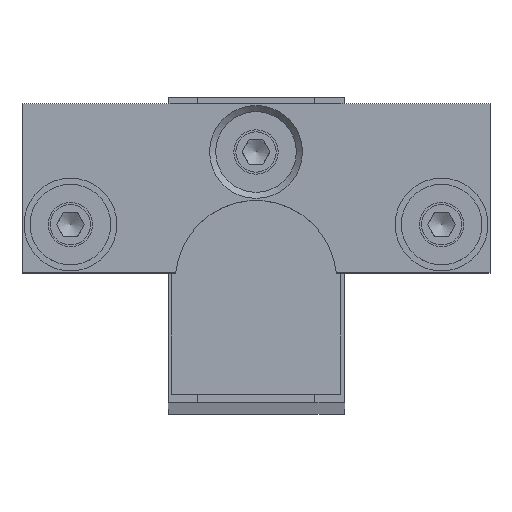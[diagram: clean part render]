
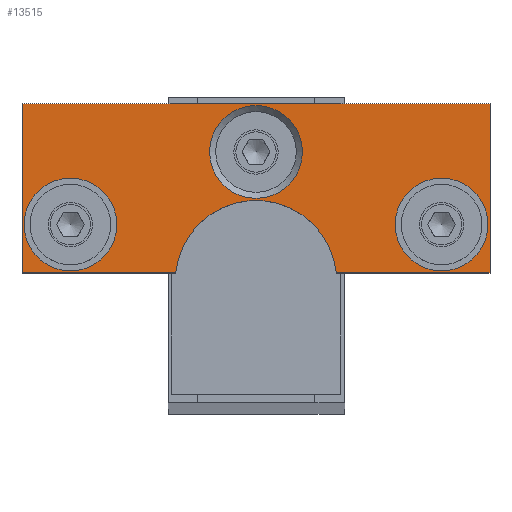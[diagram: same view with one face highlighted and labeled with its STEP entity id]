
A CAD part, top view. The second image highlights one B-rep face of the part: STEP entity #13515.
In plain terms, the highlighted planar face has unit normal (0, 0, 1).
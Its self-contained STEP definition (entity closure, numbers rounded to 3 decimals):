
#249=FACE_BOUND('',#1981,.T.);
#250=FACE_BOUND('',#1982,.T.);
#251=FACE_BOUND('',#1983,.T.);
#422=PLANE('',#14856);
#1142=FACE_OUTER_BOUND('',#1980,.T.);
#1980=EDGE_LOOP('',(#10144,#10145,#10146,#10147,#10148,#10149));
#1981=EDGE_LOOP('',(#10150));
#1982=EDGE_LOOP('',(#10151));
#1983=EDGE_LOOP('',(#10152));
#2895=LINE('',#24927,#3415);
#2896=LINE('',#24929,#3416);
#2897=LINE('',#24931,#3417);
#2898=LINE('',#24935,#3418);
#2899=LINE('',#24936,#3419);
#3415=VECTOR('',#17915,10.);
#3416=VECTOR('',#17916,10.);
#3417=VECTOR('',#17917,10.);
#3418=VECTOR('',#17920,10.);
#3419=VECTOR('',#17921,10.);
#4195=CIRCLE('',#14854,5.75);
#4197=CIRCLE('',#14857,10.);
#4198=CIRCLE('',#14858,5.75);
#4199=CIRCLE('',#14859,5.75);
#5576=VERTEX_POINT('',#24919);
#5578=VERTEX_POINT('',#24925);
#5579=VERTEX_POINT('',#24926);
#5580=VERTEX_POINT('',#24928);
#5581=VERTEX_POINT('',#24930);
#5582=VERTEX_POINT('',#24932);
#5583=VERTEX_POINT('',#24934);
#5584=VERTEX_POINT('',#24937);
#5585=VERTEX_POINT('',#24939);
#7283=EDGE_CURVE('',#5576,#5576,#4195,.T.);
#7286=EDGE_CURVE('',#5578,#5579,#2895,.T.);
#7287=EDGE_CURVE('',#5579,#5580,#2896,.T.);
#7288=EDGE_CURVE('',#5580,#5581,#2897,.T.);
#7289=EDGE_CURVE('',#5581,#5582,#4197,.T.);
#7290=EDGE_CURVE('',#5582,#5583,#2898,.T.);
#7291=EDGE_CURVE('',#5583,#5578,#2899,.T.);
#7292=EDGE_CURVE('',#5584,#5584,#4198,.T.);
#7293=EDGE_CURVE('',#5585,#5585,#4199,.T.);
#10144=ORIENTED_EDGE('',*,*,#7286,.T.);
#10145=ORIENTED_EDGE('',*,*,#7287,.T.);
#10146=ORIENTED_EDGE('',*,*,#7288,.T.);
#10147=ORIENTED_EDGE('',*,*,#7289,.T.);
#10148=ORIENTED_EDGE('',*,*,#7290,.T.);
#10149=ORIENTED_EDGE('',*,*,#7291,.T.);
#10150=ORIENTED_EDGE('',*,*,#7292,.F.);
#10151=ORIENTED_EDGE('',*,*,#7293,.F.);
#10152=ORIENTED_EDGE('',*,*,#7283,.F.);
#13515=ADVANCED_FACE('',(#1142,#249,#250,#251),#422,.T.);
#14854=AXIS2_PLACEMENT_3D('',#24920,#17908,#17909);
#14856=AXIS2_PLACEMENT_3D('',#24924,#17913,#17914);
#14857=AXIS2_PLACEMENT_3D('',#24933,#17918,#17919);
#14858=AXIS2_PLACEMENT_3D('',#24938,#17922,#17923);
#14859=AXIS2_PLACEMENT_3D('',#24940,#17924,#17925);
#17908=DIRECTION('center_axis',(0.,0.,
1.));
#17909=DIRECTION('ref_axis',(-1.,0.,0.));
#17913=DIRECTION('center_axis',(0.,0.,
1.));
#17914=DIRECTION('ref_axis',(1.,0.,0.));
#17915=DIRECTION('',(-1.,0.,0.));
#17916=DIRECTION('',(0.,-1.,0.));
#17917=DIRECTION('',(1.,0.,0.));
#17918=DIRECTION('center_axis',(0.,0.,
-1.));
#17919=DIRECTION('ref_axis',(0.995,0.1,0.));
#17920=DIRECTION('',(1.,0.,0.));
#17921=DIRECTION('',(0.,1.,0.));
#17922=DIRECTION('center_axis',(0.,0.,
1.));
#17923=DIRECTION('ref_axis',(-1.,0.,0.));
#17924=DIRECTION('center_axis',(0.,0.,
1.));
#17925=DIRECTION('ref_axis',(-1.,0.,0.));
#24919=CARTESIAN_POINT('',(39.65,22.,456.));
#24920=CARTESIAN_POINT('Origin',(33.9,22.,456.));
#24924=CARTESIAN_POINT('Origin',(10.9,27.153,456.));
#24925=CARTESIAN_POINT('',(39.9,37.,456.));
#24926=CARTESIAN_POINT('',(-18.1,37.,456.));
#24927=CARTESIAN_POINT('',(-18.1,37.,456.));
#24928=CARTESIAN_POINT('',(-18.1,16.,456.));
#24929=CARTESIAN_POINT('',(-18.1,16.,456.));
#24930=CARTESIAN_POINT('',(0.95,16.,456.));
#24931=CARTESIAN_POINT('',(0.95,16.,456.));
#24932=CARTESIAN_POINT('',(20.85,16.,456.));
#24933=CARTESIAN_POINT('Origin',(10.9,15.,456.));
#24934=CARTESIAN_POINT('',(39.9,16.,456.));
#24935=CARTESIAN_POINT('',(39.9,16.,456.));
#24936=CARTESIAN_POINT('',(39.9,37.,456.));
#24937=CARTESIAN_POINT('',(16.65,31.,456.));
#24938=CARTESIAN_POINT('Origin',(10.9,31.,456.));
#24939=CARTESIAN_POINT('',(-6.35,22.,456.));
#24940=CARTESIAN_POINT('Origin',(-12.1,22.,456.));
